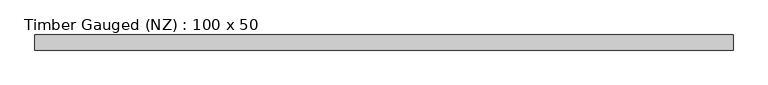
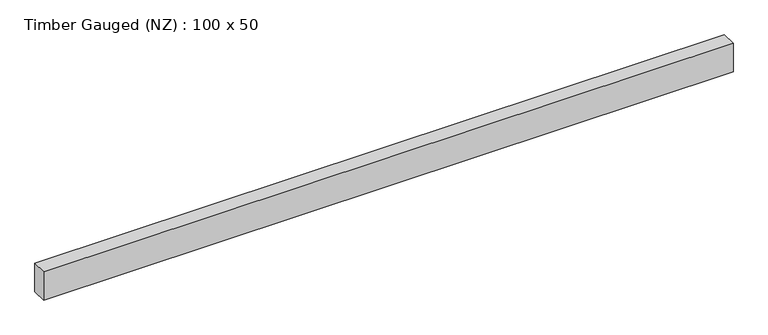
"""IFC4 building model written with IfcOpenShell, lengths in millimetres: beam geometry, Timber Gauged (NZ) : 100 x 50."""

from ifc_helpers import new_model, si_unit, frame, origin, place, context, project, spatial, polyline, outline, extrude, source, transform, mapped, element, save


def timber_gauged_nz_100_x_50_e4b9d06e(model_context):
    return source(origin(), model_context, "Body", "SweptSolid", [
        extrude(outline(polyline([(1098.5, 23.5), (1098.5, -23.5), (-1072.5, -23.5), (-1072.5, 23.5), (1098.5, 23.5)])), frame((0.0, 0.0, -47.0), z_axis=(0.0, 0.0, 1.0), x_axis=(1.0, 0.0, 0.0)), (0.0, 0.0, 1.0), 94.0),
    ])


if __name__ == "__main__":
    model = new_model("IFC4")
    model_context = context("Model", 3, world=origin())
    ifc_project = project(units=[si_unit("LENGTHUNIT", "METRE", prefix="MILLI")], contexts=[model_context])
    site = spatial("IfcSite", under=ifc_project)
    building = spatial("IfcBuilding", under=site)
    placement = place(None, origin())
    timber_gauged_nz_100_x_50_shape = timber_gauged_nz_100_x_50_e4b9d06e(model_context)
    element("IfcBeam", 1, ObjectType="Timber Gauged (NZ) : 100 x 50", at=placement, inside=building, context=model_context, shape_type="MappedRepresentation", body=[
        mapped(timber_gauged_nz_100_x_50_shape, transform((0.0, 0.0, 0.0), x_axis=(1.0, 0.0, 0.0), y_axis=(0.0, 1.0, 0.0), z_axis=(0.0, 0.0, 1.0))),
    ])
    save(model, "model.ifc")
